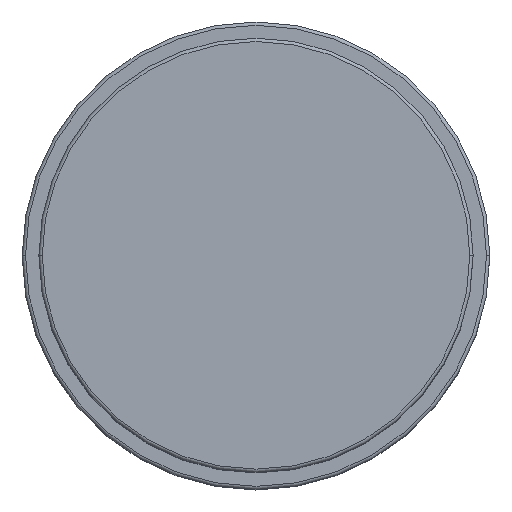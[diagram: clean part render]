
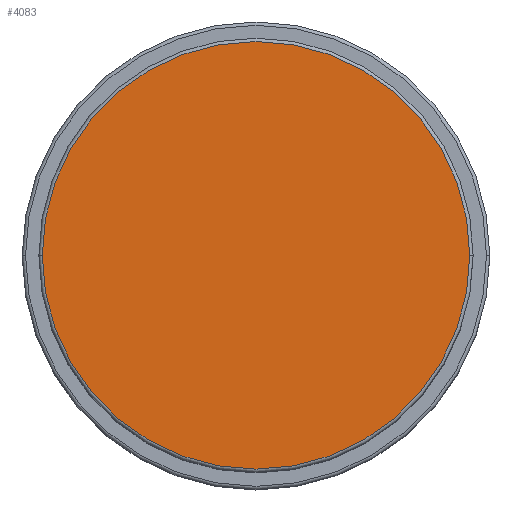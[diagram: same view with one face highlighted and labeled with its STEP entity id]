
A CAD part, top view. The second image highlights one B-rep face of the part: STEP entity #4083.
In plain terms, the highlighted planar face has unit normal (0, 0, 1).
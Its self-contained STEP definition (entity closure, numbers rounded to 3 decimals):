
#52 = EDGE_LOOP ( 'NONE', ( #4319, #4534 ) ) ;
#570 = AXIS2_PLACEMENT_3D ( 'NONE', #1965, #615, #1458 ) ;
#615 = DIRECTION ( 'NONE',  ( 0., 0., 1. ) ) ;
#1053 = PLANE ( 'NONE',  #4177 ) ;
#1355 = CIRCLE ( 'NONE', #570, 32. ) ;
#1458 = DIRECTION ( 'NONE',  ( 1., 0., 0. ) ) ;
#1792 = CIRCLE ( 'NONE', #2195, 32. ) ;
#1965 = CARTESIAN_POINT ( 'NONE',  ( 0., 0., 72. ) ) ;
#2123 = FACE_OUTER_BOUND ( 'NONE', #52, .T. ) ;
#2195 = AXIS2_PLACEMENT_3D ( 'NONE', #3708, #4518, #2464 ) ;
#2280 = DIRECTION ( 'NONE',  ( 0., 0., 1. ) ) ;
#2464 = DIRECTION ( 'NONE',  ( 1., 0., 0. ) ) ;
#2800 = CARTESIAN_POINT ( 'NONE',  ( 32., 0., 72. ) ) ;
#3178 = VERTEX_POINT ( 'NONE', #5363 ) ;
#3510 = DIRECTION ( 'NONE',  ( 1., 0., 0. ) ) ;
#3708 = CARTESIAN_POINT ( 'NONE',  ( 0., 0., 72. ) ) ;
#4083 = ADVANCED_FACE ( 'NONE', ( #2123 ), #1053, .T. ) ;
#4177 = AXIS2_PLACEMENT_3D ( 'NONE', #4764, #2280, #3510 ) ;
#4319 = ORIENTED_EDGE ( 'NONE', *, *, #5343, .T. ) ;
#4408 = EDGE_CURVE ( 'NONE', #3178, #5271, #1792, .T. ) ;
#4518 = DIRECTION ( 'NONE',  ( 0., 0., 1. ) ) ;
#4534 = ORIENTED_EDGE ( 'NONE', *, *, #4408, .T. ) ;
#4764 = CARTESIAN_POINT ( 'NONE',  ( 0., 0., 72. ) ) ;
#5271 = VERTEX_POINT ( 'NONE', #2800 ) ;
#5343 = EDGE_CURVE ( 'NONE', #5271, #3178, #1355, .T. ) ;
#5363 = CARTESIAN_POINT ( 'NONE',  ( -32., 0., 72. ) ) ;
